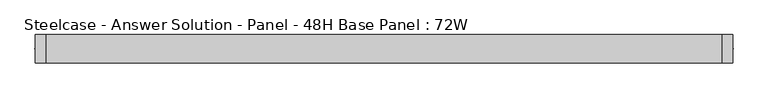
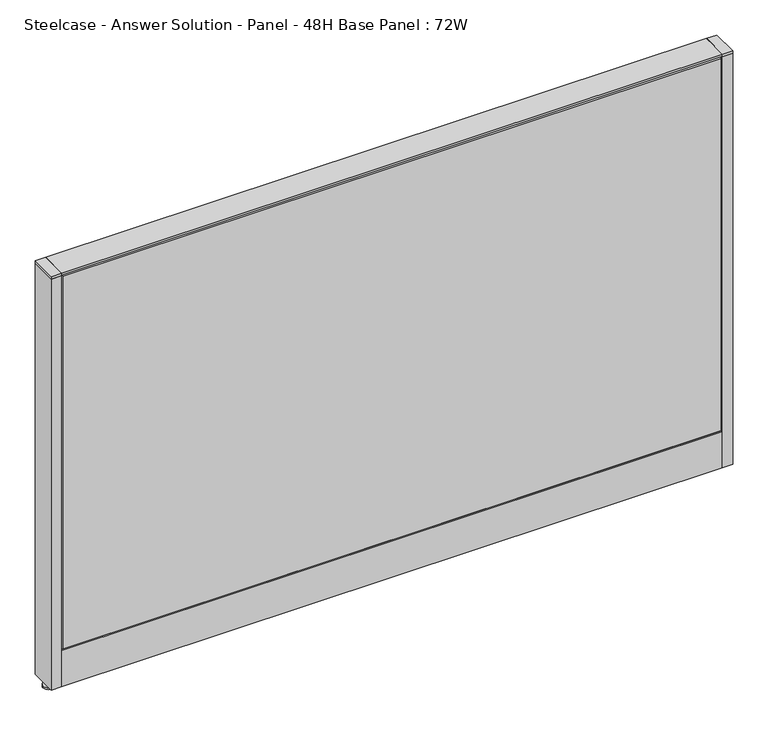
"""IFC4 building model written with IfcOpenShell, lengths in millimetres: furniture geometry, Steelcase - Answer Solution - Panel - 48H Base Panel : 72W."""

import ifcopenshell
import ifcopenshell.guid

model = None  # the IFC model being written
_history = None  # IfcOwnerHistory: only IFC2X3 demands one
_inside = {}  # id of a spatial element -> (the spatial element, [elements in it])
_under = {}  # id of a project, library or spatial element -> (it, [spatial elements below it])
_declared = {}  # id of a project -> (the project, [libraries it declares])
_typed = {}  # id of a type object -> (the type object, [elements of that type])
_made_of = {}  # id of a material, layer set ... -> (it, [elements and type objects made of it])


def new_model(schema):
    """Start an empty IFC model of exactly this schema.

    Asked for "IFC4X3", IfcOpenShell would pick the latest addendum, in which some entities
    have other attributes; the version numbers below select the first issue.
    IFC2X3 requires an IfcOwnerHistory on every rooted entity: one is made here for all.
    """
    global model, _history
    if schema == "IFC4X3":
        model = ifcopenshell.file(schema_version=(4, 3, 0, 0))
    else:
        model = ifcopenshell.file(schema=schema)
    _inside.clear()
    _under.clear()
    _declared.clear()
    _typed.clear()
    _made_of.clear()
    _history = None
    if model.schema == "IFC2X3":
        org = make("IfcOrganization", Name="unknown")
        user = make(
            "IfcPersonAndOrganization",
            ThePerson=make("IfcPerson", FamilyName="unknown"),
            TheOrganization=org,
        )
        app = make(
            "IfcApplication",
            ApplicationDeveloper=org,
            Version="unknown",
            ApplicationFullName="unknown",
            ApplicationIdentifier="unknown",
        )
        _history = make(
            "IfcOwnerHistory",
            OwningUser=user,
            OwningApplication=app,
            ChangeAction="ADDED",
            CreationDate=0,
        )
    return model


def make(cls, **values):
    """One entity of the class cls with the attributes given. An attribute that is None is left unset."""
    return model.create_entity(
        cls, **{name: value for name, value in values.items() if value is not None}
    )


def rooted(cls, **values):
    """An entity with a GlobalId (a new one), such as an element, a storey or a relation."""
    return make(cls, GlobalId=ifcopenshell.guid.new(), OwnerHistory=_history, **values)


def si_unit(unit_type, name, prefix=None):
    """IfcSIUnit, for example si_unit("LENGTHUNIT", "METRE", prefix="MILLI")."""
    return make("IfcSIUnit", UnitType=unit_type, Prefix=prefix, Name=name)


def assignment(units):
    """IfcUnitAssignment: the units of a project."""
    return None if units is None else make("IfcUnitAssignment", Units=units)


def point(xyz):
    """IfcCartesianPoint."""
    return None if xyz is None else make("IfcCartesianPoint", Coordinates=xyz)


def direction(xyz):
    """IfcDirection."""
    return None if xyz is None else make("IfcDirection", DirectionRatios=xyz)


def frame(location, z_axis=None, x_axis=None):
    """IfcAxis2Placement3D, a coordinate frame: its origin and axes. An axis left out is left unset."""
    return make(
        "IfcAxis2Placement3D",
        Location=point(location),
        Axis=direction(z_axis),
        RefDirection=direction(x_axis),
    )


def frame_2d(location, x_axis=None):
    """IfcAxis2Placement2D, a coordinate frame in the plane: its origin and x axis."""
    return make(
        "IfcAxis2Placement2D", Location=point(location), RefDirection=direction(x_axis)
    )


def origin():
    """The frame at (0, 0, 0) with its axes left unset."""
    return frame((0.0, 0.0, 0.0))


def place(relative_to, where):
    """IfcLocalPlacement: puts the frame where relative to a parent placement (None: the world)."""
    return make(
        "IfcLocalPlacement", PlacementRelTo=relative_to, RelativePlacement=where
    )


def context(
    kind, dimensions, precision=None, world=None, true_north=None, identifier=None
):
    """IfcGeometricRepresentationContext, for example the 3D "Model" context."""
    return make(
        "IfcGeometricRepresentationContext",
        ContextIdentifier=identifier,
        ContextType=kind,
        CoordinateSpaceDimension=dimensions,
        Precision=precision,
        WorldCoordinateSystem=world,
        TrueNorth=true_north,
    )


def project(units=None, contexts=None):
    """IfcProject with its units and contexts."""
    return rooted(
        "IfcProject",
        Name="project",
        RepresentationContexts=contexts,
        UnitsInContext=assignment(units),
    )


def spatial(cls, under=None, at=None, **own):
    """A site, building, storey or space (cls), placed at a placement, below another one or the project."""
    s = rooted(cls, ObjectPlacement=at, **own)
    if under is not None:
        _under.setdefault(under.id(), (under, []))[1].append(s)
    return s


def polyline(points):
    """IfcPolyline through the points."""
    return make("IfcPolyline", Points=[point(p) for p in points])


def circle_curve(where, radius):
    """IfcCircle in the frame where."""
    return make("IfcCircle", Position=where, Radius=radius)


def trimmed(basis, trim1, trim2, sense, master):
    """IfcTrimmedCurve: the piece of a basis curve between two trims."""
    return make(
        "IfcTrimmedCurve",
        BasisCurve=basis,
        Trim1=trim1,
        Trim2=trim2,
        SenseAgreement=sense,
        MasterRepresentation=master,
    )


def segment(curve, same_sense, transition):
    """IfcCompositeCurveSegment."""
    return make(
        "IfcCompositeCurveSegment",
        Transition=transition,
        SameSense=same_sense,
        ParentCurve=curve,
    )


def composite_curve(segments, self_intersect=None):
    """IfcCompositeCurve: segments joined end to end."""
    return make("IfcCompositeCurve", Segments=segments, SelfIntersect=self_intersect)


def outline(outer, holes=None, kind="AREA"):
    """IfcArbitraryClosedProfileDef: a profile drawn as a closed curve; with holes, ...WithVoids."""
    if holes is None:
        return make("IfcArbitraryClosedProfileDef", ProfileType=kind, OuterCurve=outer)
    return make(
        "IfcArbitraryProfileDefWithVoids",
        ProfileType=kind,
        OuterCurve=outer,
        InnerCurves=holes,
    )


def extrude(swept, where, along, depth):
    """IfcExtrudedAreaSolid: the profile swept, set in the frame where, extruded along a direction by depth."""
    return make(
        "IfcExtrudedAreaSolid",
        SweptArea=swept,
        Position=where,
        ExtrudedDirection=direction(along),
        Depth=depth,
    )


def faces_of(points, faces, orient=None, outer=None):
    """IfcFace entities. A face is a list of loops; a loop is a list of indices into points, from 0.

    orient and outer hold one flag for each loop. By default every Orientation is true, the
    first loop of a face is its IfcFaceOuterBound and the others are IfcFaceBound.
    """
    made = []
    for i, loops in enumerate(faces):
        bounds = []
        for j, loop in enumerate(loops):
            is_outer = j == 0 if outer is None else outer[i][j]
            bounds.append(
                make(
                    "IfcFaceOuterBound" if is_outer else "IfcFaceBound",
                    Bound=make("IfcPolyLoop", Polygon=[points[k] for k in loop]),
                    Orientation=True if orient is None else orient[i][j],
                )
            )
        made.append(make("IfcFace", Bounds=bounds))
    return made


def faceted_brep(points, faces, orient=None, outer=None, voids=None):
    """IfcFacetedBrep: a solid bounded by flat faces; with voids (closed shells), ...WithVoids."""
    shared = [point(p) for p in points]
    hull = make("IfcClosedShell", CfsFaces=faces_of(shared, faces, orient, outer))
    if voids is None:
        return make("IfcFacetedBrep", Outer=hull)
    return make(
        "IfcFacetedBrepWithVoids",
        Outer=hull,
        Voids=[
            make(cls, CfsFaces=faces_of(shared, fs, o, b)) for cls, fs, o, b in voids
        ],
    )


def shape(context_of_items, identifier, shape_type, items):
    """IfcShapeRepresentation: the items that make up one representation, for example the "Body"."""
    return make(
        "IfcShapeRepresentation",
        ContextOfItems=context_of_items,
        RepresentationIdentifier=identifier,
        RepresentationType=shape_type,
        Items=items,
    )


def source(mapping_origin, context_of_items, identifier, shape_type, items):
    """IfcRepresentationMap: a shape defined once, which mapped items show again and again."""
    return make(
        "IfcRepresentationMap",
        MappingOrigin=mapping_origin,
        MappedRepresentation=shape(context_of_items, identifier, shape_type, items),
    )


def transform(
    local_origin,
    x_axis=None,
    y_axis=None,
    z_axis=None,
    scale=None,
    scale2=None,
    scale3=None,
    uniform=True,
):
    """IfcCartesianTransformationOperator3D, or its non-uniform kind. x_axis, y_axis, z_axis: its Axis1, 2, 3."""
    if uniform:
        return make(
            "IfcCartesianTransformationOperator3D",
            Axis1=direction(x_axis),
            Axis2=direction(y_axis),
            LocalOrigin=point(local_origin),
            Scale=scale,
            Axis3=direction(z_axis),
        )
    return make(
        "IfcCartesianTransformationOperator3DnonUniform",
        Axis1=direction(x_axis),
        Axis2=direction(y_axis),
        LocalOrigin=point(local_origin),
        Scale=scale,
        Axis3=direction(z_axis),
        Scale2=scale2,
        Scale3=scale3,
    )


def mapped(mapping_source, mapping_target):
    """IfcMappedItem: shows the shape of a source again, moved by a transform."""
    return make(
        "IfcMappedItem", MappingSource=mapping_source, MappingTarget=mapping_target
    )


def made_of(thing, what):
    """Note that an element or type object is made of a material, layer set ...; save() writes the relation."""
    if what is not None:
        _made_of.setdefault(what.id(), (what, []))[1].append(thing)
    return thing


def element(
    cls,
    number,
    at=None,
    inside=None,
    cuts=None,
    type_object=None,
    material=None,
    context=None,
    identifier="Body",
    shape_type=None,
    held_by="IfcProductDefinitionShape",
    body=None,
    shapes=None,
    **own,
):
    """One element of the class cls, such as IfcWall. Its Tag is "e" and its number.

    at: its placement. inside: the storey or other place that contains it. cuts: it is an
    opening in that element (IfcRelVoidsElement). A single representation is given by context,
    identifier, shape_type and body (its items); several are given by shapes. held_by: the class
    of the entity that holds the representations. save() writes the other relations.
    """
    e = rooted(cls, Tag="e%d" % number, ObjectPlacement=at, **own)
    if body is not None:
        shapes = [shape(context, identifier, shape_type, body)]
    if shapes is not None:
        e.Representation = make(held_by, Representations=shapes)
    if inside is not None:
        _inside.setdefault(inside.id(), (inside, []))[1].append(e)
    if cuts is not None:
        rooted(
            "IfcRelVoidsElement", RelatingBuildingElement=cuts, RelatedOpeningElement=e
        )
    if type_object is not None:
        _typed.setdefault(type_object.id(), (type_object, []))[1].append(e)
    return made_of(e, material)


def aggregate(whole, parts):
    """IfcRelAggregates: a whole, such as a stair, and the parts it consists of."""
    return rooted("IfcRelAggregates", RelatingObject=whole, RelatedObjects=parts)


def save(model, path):
    """Write the relations noted so far, then the file.

    IfcRelAggregates (storeys below a building ...), IfcRelContainedInSpatialStructure (elements
    in a storey), IfcRelDefinesByType, IfcRelAssociatesMaterial and IfcRelDeclares: one each for
    every whole, place, type object, material and project.
    """
    for whole, parts in _under.values():
        aggregate(whole, parts)
    for where, things in _inside.values():
        rooted(
            "IfcRelContainedInSpatialStructure",
            RelatedElements=things,
            RelatingStructure=where,
        )
    for kind, things in _typed.values():
        rooted("IfcRelDefinesByType", RelatedObjects=things, RelatingType=kind)
    for what, things in _made_of.values():
        rooted("IfcRelAssociatesMaterial", RelatedObjects=things, RelatingMaterial=what)
    for by, libraries in _declared.values():
        rooted("IfcRelDeclares", RelatingContext=by, RelatedDefinitions=libraries)
    model.write(path)


def steelcase_answer_solution_panel_48h_base_panel_72w_82e6c81d(model_context):
    return source(origin(), model_context, "Body", "SolidModel", [
        extrude(outline(composite_curve([segment(trimmed(circle_curve(frame_2d((928.624, 0.0320214)), 5.08), [point((933.704, 0.0320214))], [point((923.544, 0.0320214))], False, "CARTESIAN"), True, "CONTINUOUS"), segment(trimmed(circle_curve(frame_2d((928.624, 0.0320214)), 5.08), [point((923.544, 0.0320214))], [point((933.704, 0.0320214))], False, "CARTESIAN"), True, "CONTINUOUS")], self_intersect=False)), frame((0.0, 0.0, 5.0799671), z_axis=(0.0, 0.0, 1.0), x_axis=(1.0, 0.0, 0.0)), (0.0, 0.0, 1.0), 10.414),
        extrude(outline(composite_curve([segment(trimmed(circle_curve(frame_2d((928.624, 0.0320214)), 15.24), [point((943.864, 0.0320214))], [point((913.384, 0.0320214))], False, "CARTESIAN"), True, "CONTINUOUS"), segment(trimmed(circle_curve(frame_2d((928.624, 0.0320214)), 15.24), [point((913.384, 0.0320214))], [point((943.864, 0.0320214))], False, "CARTESIAN"), True, "CONTINUOUS")], self_intersect=False)), frame((0.0, 0.0, -3.29e-05), z_axis=(0.0, 0.0, 1.0), x_axis=(1.0, 0.0, 0.0)), (0.0, 0.0, 1.0), 5.08),
        extrude(outline(polyline([(942.975, 38.1320408), (942.975, -38.0679592), (914.4, -38.0679592), (914.4, 38.1320408), (942.975, 38.1320408)])), frame((0.0, 0.0, 1218.2348), z_axis=(0.0, 0.0, 1.0), x_axis=(1.0, 0.0, 0.0)), (0.0, 0.0, 1.0), 7.3151671),
        extrude(outline(polyline([(942.975, 38.1320408), (942.975, -38.0679592), (914.4, -38.0679592), (914.4, 38.1320408), (942.975, 38.1320408)])), frame((0.0, 0.0, 15.4939671), z_axis=(0.0, 0.0, 1.0), x_axis=(1.0, 0.0, 0.0)), (0.0, 0.0, 1.0), 1202.7408329),
        extrude(outline(composite_curve([segment(trimmed(circle_curve(frame_2d((-928.624, 0.0320214)), 5.08), [point((-933.704, 0.0320214))], [point((-923.544, 0.0320214))], False, "CARTESIAN"), True, "CONTINUOUS"), segment(trimmed(circle_curve(frame_2d((-928.624, 0.0320214)), 5.08), [point((-923.544, 0.0320214))], [point((-933.704, 0.0320214))], False, "CARTESIAN"), True, "CONTINUOUS")], self_intersect=False)), frame((0.0, 0.0, 5.0799671), z_axis=(0.0, 0.0, 1.0), x_axis=(1.0, 0.0, 0.0)), (0.0, 0.0, 1.0), 10.414),
        extrude(outline(composite_curve([segment(trimmed(circle_curve(frame_2d((-928.624, 0.0320214)), 15.24), [point((-943.864, 0.0320214))], [point((-913.384, 0.0320214))], False, "CARTESIAN"), True, "CONTINUOUS"), segment(trimmed(circle_curve(frame_2d((-928.624, 0.0320214)), 15.24), [point((-913.384, 0.0320214))], [point((-943.864, 0.0320214))], False, "CARTESIAN"), True, "CONTINUOUS")], self_intersect=False)), frame((0.0, 0.0, -3.29e-05), z_axis=(0.0, 0.0, 1.0), x_axis=(1.0, 0.0, 0.0)), (0.0, 0.0, 1.0), 5.08),
        extrude(outline(polyline([(-942.975, 38.1320408), (-914.4, 38.1320408), (-914.4, -38.0679592), (-942.975, -38.0679592), (-942.975, 38.1320408)])), frame((0.0, 0.0, 1218.2348), z_axis=(0.0, 0.0, 1.0), x_axis=(1.0, 0.0, 0.0)), (0.0, 0.0, 1.0), 7.3151671),
        extrude(outline(polyline([(-942.975, 38.1320408), (-914.4, 38.1320408), (-914.4, -38.0679592), (-942.975, -38.0679592), (-942.975, 38.1320408)])), frame((0.0, 0.0, 15.4939671), z_axis=(0.0, 0.0, 1.0), x_axis=(1.0, 0.0, 0.0)), (0.0, 0.0, 1.0), 1202.7408329),
        faceted_brep([(-909.574, 38.1635011, 1214.374), (909.574, 38.1635011, 1214.374), (909.574, 38.1635011, 125.476), (-909.574, 38.1635011, 125.476), (-914.4, 33.3375011, 1219.2), (-914.4, 33.3375011, 120.65), (914.4, 33.3375011, 120.65), (914.4, 33.3375011, 1219.2)], [[[0, 1, 2, 3]], [[4, 5, 6, 7]], [[4, 7, 1, 0]], [[7, 6, 2, 1]], [[6, 5, 3, 2]], [[5, 4, 0, 3]]]),
        faceted_brep([(909.574, -38.1635011, 1214.374), (-909.574, -38.1635011, 1214.374), (-909.574, -38.1635011, 125.476), (909.574, -38.1635011, 125.476), (914.4, -33.3375011, 1219.2), (914.4, -33.3375011, 120.65), (-914.4, -33.3375011, 120.65), (-914.4, -33.3375011, 1219.2)], [[[0, 1, 2, 3]], [[4, 5, 6, 7]], [[4, 7, 1, 0]], [[7, 6, 2, 1]], [[6, 5, 3, 2]], [[5, 4, 0, 3]]]),
        extrude(outline(polyline([(914.4, 38.1000194), (914.4, -38.1000194), (-914.4, -38.1000194), (-914.4, 38.1000194), (914.4, 38.1000194)])), frame((0.0, 0.0, 1219.2), z_axis=(0.0, 0.0, 1.0), x_axis=(1.0, 0.0, 0.0)), (0.0, 0.0, 1.0), 6.35),
        extrude(outline(polyline([(25.4000011, 119.8575157), (25.4000011, 120.65), (38.1000194, 120.65), (38.1000194, 15.494), (37.3075215, 15.494), (37.3075215, 119.8575157), (25.4000011, 119.8575157)])), frame((-914.4, 0.0, 0.0), z_axis=(1.0, 0.0, 0.0), x_axis=(0.0, 1.0, 0.0)), (0.0, 0.0, 1.0), 1828.8),
        extrude(outline(polyline([(-25.4000011, 119.8575157), (-37.3075215, 119.8575157), (-37.3075215, 15.494), (-38.1000194, 15.494), (-38.1000194, 120.65), (-25.4000011, 120.65), (-25.4000011, 119.8575157)])), frame((-914.4, 0.0, 0.0), z_axis=(1.0, 0.0, 0.0), x_axis=(0.0, 1.0, 0.0)), (0.0, 0.0, 1.0), 1828.8),
    ])


if __name__ == "__main__":
    model = new_model("IFC4")
    model_context = context("Model", 3, world=origin())
    ifc_project = project(units=[si_unit("LENGTHUNIT", "METRE", prefix="MILLI")], contexts=[model_context])
    site = spatial("IfcSite", under=ifc_project)
    building = spatial("IfcBuilding", under=site)
    placement = place(None, origin())
    steelcase_answer_solution_panel_48h_base_panel_72w_shape = steelcase_answer_solution_panel_48h_base_panel_72w_82e6c81d(model_context)
    element("IfcFurniture", 1, ObjectType="Steelcase - Answer Solution - Panel - 48H Base Panel : 72W", at=placement, inside=building, context=model_context, shape_type="MappedRepresentation", body=[
        mapped(steelcase_answer_solution_panel_48h_base_panel_72w_shape, transform((0.0, 0.0, 0.0), x_axis=(1.0, 0.0, 0.0), y_axis=(0.0, 1.0, 0.0), z_axis=(0.0, 0.0, 1.0))),
    ])
    save(model, "model.ifc")
